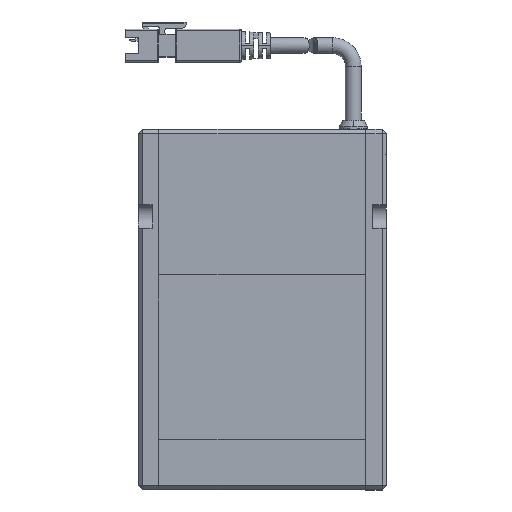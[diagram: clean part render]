
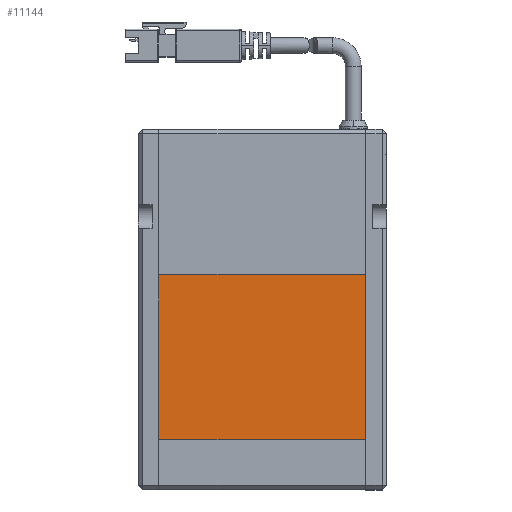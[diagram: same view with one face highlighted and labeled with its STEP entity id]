
A CAD part, top view. The second image highlights one B-rep face of the part: STEP entity #11144.
In plain terms, the highlighted planar face has unit normal (0, 0, 1).
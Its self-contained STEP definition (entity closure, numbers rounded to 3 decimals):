
#547 = DIRECTION ( 'NONE',  ( 1., 0., 0. ) ) ;
#1795 = AXIS2_PLACEMENT_3D ( 'NONE', #3464, #9684, #547 ) ;
#1868 = VERTEX_POINT ( 'NONE', #10191 ) ;
#2716 = ORIENTED_EDGE ( 'NONE', *, *, #13630, .T. ) ;
#2944 = CARTESIAN_POINT ( 'NONE',  ( 53.5, -33.5, 29. ) ) ;
#3050 = DIRECTION ( 'NONE',  ( 0., 1., 0. ) ) ;
#3121 = CARTESIAN_POINT ( 'NONE',  ( 53.5, -33.5, 29. ) ) ;
#3225 = ORIENTED_EDGE ( 'NONE', *, *, #9162, .T. ) ;
#3464 = CARTESIAN_POINT ( 'NONE',  ( 27.5, -12., 29. ) ) ;
#4063 = VECTOR ( 'NONE', #14401, 1000. ) ;
#4294 = CARTESIAN_POINT ( 'NONE',  ( 53.5, -33.5, 29. ) ) ;
#4472 = DIRECTION ( 'NONE',  ( -1., 0., 0. ) ) ;
#5917 = LINE ( 'NONE', #8264, #11593 ) ;
#6388 = CARTESIAN_POINT ( 'NONE',  ( 1.5, 9.5, 29. ) ) ;
#6394 = CARTESIAN_POINT ( 'NONE',  ( 53.5, 9.5, 29. ) ) ;
#8073 = DIRECTION ( 'NONE',  ( 1., 0., 0. ) ) ;
#8264 = CARTESIAN_POINT ( 'NONE',  ( 53.5, 9.5, 29. ) ) ;
#8344 = FACE_OUTER_BOUND ( 'NONE', #15820, .T. ) ;
#8416 = EDGE_CURVE ( 'NONE', #9752, #1868, #14235, .T. ) ;
#9162 = EDGE_CURVE ( 'NONE', #14202, #9752, #5917, .T. ) ;
#9313 = CARTESIAN_POINT ( 'NONE',  ( 1.5, -33.5, 29. ) ) ;
#9436 = LINE ( 'NONE', #4294, #11978 ) ;
#9515 = PLANE ( 'NONE',  #1795 ) ;
#9642 = VERTEX_POINT ( 'NONE', #3121 ) ;
#9684 = DIRECTION ( 'NONE',  ( 0., 0., 1. ) ) ;
#9752 = VERTEX_POINT ( 'NONE', #6388 ) ;
#10191 = CARTESIAN_POINT ( 'NONE',  ( 1.5, -33.5, 29. ) ) ;
#10662 = VECTOR ( 'NONE', #8073, 1000. ) ;
#11144 = ADVANCED_FACE ( 'NONE', ( #8344 ), #9515, .T. ) ;
#11576 = ORIENTED_EDGE ( 'NONE', *, *, #13260, .T. ) ;
#11593 = VECTOR ( 'NONE', #4472, 1000. ) ;
#11978 = VECTOR ( 'NONE', #3050, 1000. ) ;
#13260 = EDGE_CURVE ( 'NONE', #9642, #14202, #9436, .T. ) ;
#13630 = EDGE_CURVE ( 'NONE', #1868, #9642, #14159, .T. ) ;
#14159 = LINE ( 'NONE', #2944, #10662 ) ;
#14202 = VERTEX_POINT ( 'NONE', #6394 ) ;
#14235 = LINE ( 'NONE', #9313, #4063 ) ;
#14401 = DIRECTION ( 'NONE',  ( 0., -1., 0. ) ) ;
#15207 = ORIENTED_EDGE ( 'NONE', *, *, #8416, .T. ) ;
#15820 = EDGE_LOOP ( 'NONE', ( #11576, #3225, #15207, #2716 ) ) ;
